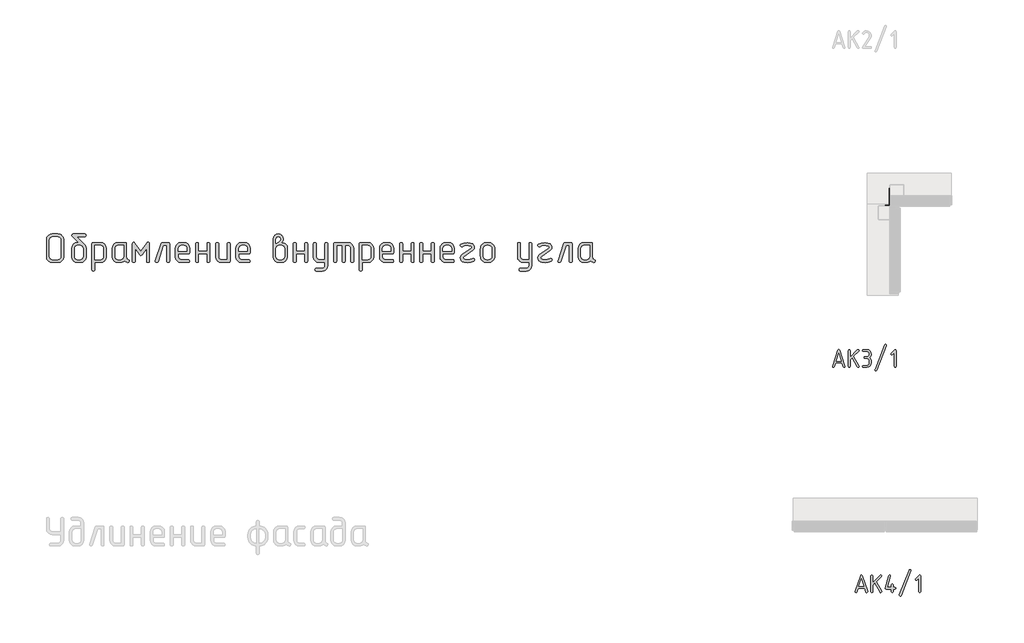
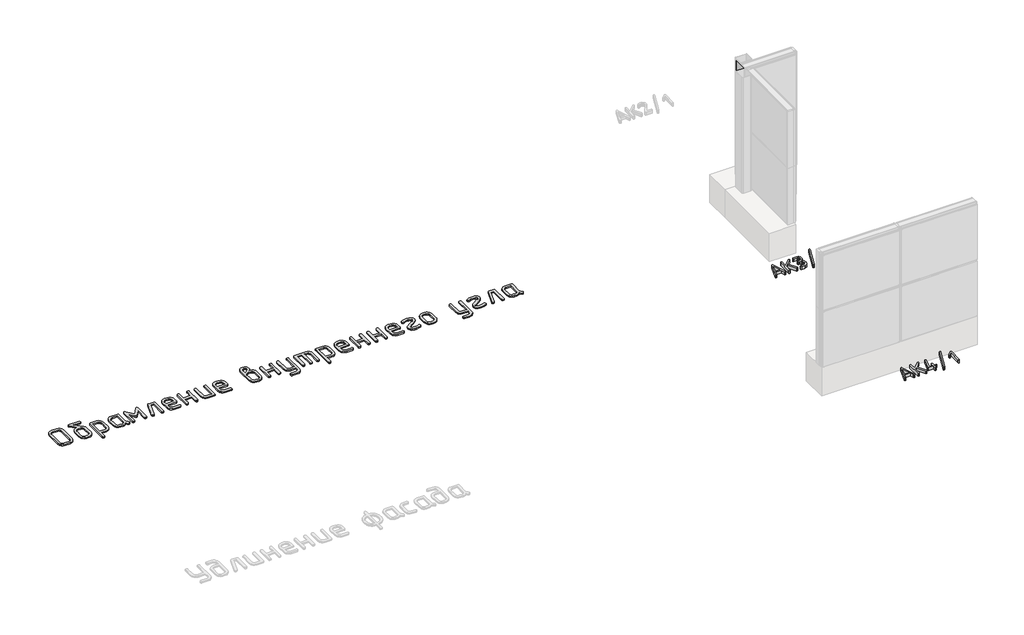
# One storey, part 13 of 37: 4 proxies.
"""IFC4 building model written with IfcOpenShell, lengths in millimetres."""

from ifc_helpers import new_model, si_unit, origin, origin_with_axes, place, context, project, spatial, polyline, outline, extrude, transform, mapped, element, save
from components import generic_models_190d8ba8

model = new_model("IFC4")

# Units and contexts
model_context = context("Model", 3, world=origin())
ifc_project = project(units=[si_unit("LENGTHUNIT", "METRE", prefix="MILLI")], contexts=[model_context])

# Site, building, storey
site = spatial("IfcSite", under=ifc_project)
building = spatial("IfcBuilding", under=site)
storey = spatial("IfcBuildingStorey", under=building, Name="Этаж 01", Elevation=0.0)

# Proxies
placement = place(None, origin())
element("IfcBuildingElementProxy", 1, Name="250 мм ГОСТ 2.304", ObjectType="250 мм ГОСТ 2.304", at=placement, inside=storey, context=model_context, shape_type="SweptSolid", body=[
    extrude(outline(polyline([(46420.8154984, -18926.1300608), (46402.9821438, -18980.0681368), (46398.7740979, -18986.3567408), (46391.2809603, -18988.4529422), (46382.5207159, -18985.1678505), (46378.5160328, -18976.8143318), (46379.6423499, -18972.0587706), (46454.3547197, -18747.9216611), (46459.2667139, -18739.9905113), (46465.9933301, -18737.3467947), (46473.0953853, -18739.9905113), (46477.6319404, -18747.9216611), (46552.7197493, -18972.0587706), (46553.4706274, -18976.8143318), (46549.4659443, -18985.1678505), (46540.7056999, -18988.4529422), (46535.2618338, -18987.7646372), (46529.0670895, -18980.0681368), (46511.1711617, -18926.1300608), (46420.8154984, -18926.1300608)]), holes=[polyline([(46502.7863564, -18900.9756448), (46465.9933301, -18790.9720048), (46429.2003037, -18900.9756448), (46502.7863564, -18900.9756448)])]), origin_with_axes(), (0.0, 0.0, 1.0), 50.0),
    extrude(outline(polyline([(46626.4935215, -18847.4130078), (46731.0532954, -18743.5415389), (46739.8135397, -18739.5368558), (46748.7615036, -18743.385106), (46752.5784672, -18752.3017833), (46748.5737841, -18761.0620276), (46674.6122924, -18835.0235194), (46750.7638452, -18970.2441485), (46752.5784672, -18976.8143318), (46748.5737841, -18985.7310091), (46739.4381007, -18989.2038202), (46733.3528595, -18987.4674147), (46728.8632343, -18982.2581979), (46656.0280597, -18852.1685691), (46626.4935215, -18881.3276682), (46626.4935215, -18976.4388927), (46623.0207104, -18985.7310091), (46614.1040331, -18988.8283812), (46605.1560692, -18985.5432896), (46601.3391055, -18976.4388927), (46601.3391055, -18752.3017833), (46605.1560692, -18743.1973865), (46614.1040331, -18739.9122948), (46622.6765579, -18743.1973865), (46626.4935215, -18752.3017833), (46626.4935215, -18847.4130078)])), origin_with_axes(), (0.0, 0.0, 1.0), 50.0),
    extrude(outline(polyline([(46862.7698267, -18765.0667108), (46812.899007, -18765.0667108), (46803.7633236, -18761.4374667), (46800.5095186, -18752.3017833), (46803.7633236, -18743.760545), (46812.899007, -18739.9122948), (46862.7698267, -18739.9122948), (46889.0192733, -18744.7460725), (46909.4494146, -18759.2474056), (46921.1818847, -18778.4730133), (46925.0927081, -18801.8597371), (46923.544022, -18816.6817577), (46918.8979639, -18830.4869643), (46911.2483933, -18842.649625), (46900.6891702, -18852.5440081), (46918.5538114, -18873.8501739), (46923.4579839, -18887.0922218), (46925.0927081, -18901.7265229), (46925.0927081, -18926.8809389), (46920.5405097, -18950.8229996), (46906.8839144, -18970.96374), (46886.7509957, -18984.6438002), (46862.7698267, -18989.2038202), (46812.899007, -18989.2038202), (46803.7633236, -18985.5432896), (46800.5095186, -18976.8143318), (46803.7633236, -18967.8663679), (46812.899007, -18964.0494043), (46862.7698267, -18964.0494043), (46877.1929434, -18961.1397517), (46889.0192733, -18953.1303854), (46897.0599261, -18941.2727689), (46900.0008653, -18926.8809389), (46900.0008653, -18901.7265229), (46897.0599261, -18887.3346929), (46889.0192733, -18875.4770764), (46877.1929434, -18867.4677101), (46862.7698267, -18864.5580575), (46837.6779839, -18864.5580575), (46828.7300201, -18860.9288134), (46825.2884955, -18852.1685691), (46828.5423005, -18843.4083247), (46837.6779839, -18839.7790806), (46862.7698267, -18839.7790806), (46877.7404586, -18836.7755683), (46889.7388648, -18827.7650312), (46896.8722066, -18815.5319757), (46899.2499872, -18801.4842981), (46897.0599261, -18787.5774102), (46890.4897428, -18776.3924553), (46878.4600501, -18767.8981469), (46862.7698267, -18765.0667108)])), origin_with_axes(), (0.0, 0.0, 1.0), 50.0),
    extrude(outline(polyline([(47139.2181097, -18681.9695356), (47002.1828585, -19030.7524078), (46997.4585839, -19036.571713), (46990.9196872, -19038.7617741), (46981.7840038, -19035.2889629), (46977.7793206, -19026.3722856), (46978.5301987, -19021.6167244), (47115.5654499, -18672.8964254), (47120.2897245, -18667.014547), (47126.8286212, -18664.824486), (47135.9643046, -18668.4850166), (47139.9689878, -18677.2139744), (47139.2181097, -18681.9695356)])), origin_with_axes(), (0.0, 0.0, 1.0), 50.0),
    extrude(outline(polyline([(47276.7539463, -18976.4388927), (47273.2811351, -18985.7310091), (47264.3644578, -18988.8283812), (47255.791933, -18985.5432896), (47251.9749693, -18976.4388927), (47251.9749693, -18782.2117605), (47223.1913093, -18810.6199815), (47214.806504, -18814.6246646), (47205.8585401, -18810.807701), (47202.0415764, -18801.8597371), (47206.0462596, -18793.1620659), (47255.6042134, -18743.5415389), (47266.5545189, -18738.0976728), (47273.8442937, -18741.7582035), (47276.7539463, -18752.3017833), (47276.7539463, -18976.4388927)])), origin_with_axes(), (0.0, 0.0, 1.0), 50.0),
])
element("IfcBuildingElementProxy", 2, Name="400 мм ГОСТ 2.304", ObjectType="400 мм ГОСТ 2.304", at=placement, inside=storey, context=model_context, shape_type="SweptSolid", body=[
    extrude(outline(polyline([(35529.9614469, -17429.4392879), (35524.0713089, -17460.9629021), (35516.7086364, -17474.7339437), (35506.4008948, -17487.1778083), (35480.7926982, -17504.3931902), (35449.8757935, -17510.1316508), (35369.1834306, -17510.1316508), (35338.1148485, -17504.3931902), (35312.0516197, -17487.1778083), (35301.7438782, -17474.7339437), (35294.3812057, -17460.9629021), (35288.4910677, -17429.4392879), (35288.4910677, -17187.9689087), (35294.3812057, -17156.9003266), (35312.0516197, -17130.8370978), (35338.1148485, -17113.1666838), (35369.1834306, -17107.2765458), (35449.8757935, -17107.2765458), (35480.7926982, -17113.1666838), (35494.260385, -17120.5293563), (35506.4008948, -17130.8370978), (35524.0713089, -17156.9003266), (35529.9614469, -17187.9689087), (35529.9614469, -17429.4392879)]), holes=[polyline([(35489.9186202, -17429.4392879), (35489.9186202, -17187.9689087), (35486.9735512, -17172.2829403), (35478.1383442, -17159.4030033), (35465.1825685, -17150.7953123), (35449.8757935, -17147.926082), (35369.1834306, -17147.926082), (35353.4974622, -17150.7953123), (35340.6175252, -17159.4030033), (35332.0098342, -17172.2829403), (35329.1406039, -17187.9689087), (35329.1406039, -17429.4392879), (35332.0098342, -17445.201095), (35340.6175252, -17458.3085481), (35353.4974622, -17467.1437551), (35369.1834306, -17470.0888241), (35449.8757935, -17470.0888241), (35465.1825685, -17467.1437551), (35478.1383442, -17458.3085481), (35486.9735512, -17445.201095), (35489.9186202, -17429.4392879)])]), origin_with_axes(), (0.0, 0.0, 1.0), 20.0),
    extrude(outline(polyline([(35740.9952331, -17228.6184449), (35650.898873, -17142.0612235), (35645.1351328, -17134.4015161), (35643.2138861, -17125.5789489), (35648.5225942, -17112.5852538), (35655.3101567, -17108.6037228), (35665.0554279, -17107.2765458), (35825.8334443, -17107.2765458), (35834.5928126, -17108.7554002), (35840.8495043, -17113.1919633), (35845.8548576, -17127.9046686), (35840.5461495, -17141.7578688), (35834.2136192, -17146.3840287), (35825.8334443, -17147.926082), (35715.1089613, -17147.926082), (35821.687596, -17249.8532772), (35826.4401538, -17256.3248452), (35841.0011817, -17280.593225), (35845.8548576, -17308.7040983), (35845.8548576, -17429.4392879), (35839.9647196, -17460.9629021), (35832.6020471, -17474.7339437), (35822.2943055, -17487.1778083), (35796.5344315, -17504.3931902), (35765.1624947, -17510.1316508), (35725.119668, -17510.1316508), (35694.0510859, -17504.3931902), (35667.9878572, -17487.1778083), (35657.6801156, -17474.7339437), (35650.3174431, -17460.9629021), (35644.4273051, -17429.4392879), (35644.4273051, -17308.7040983), (35650.3174431, -17278.0905483), (35667.9878572, -17252.178997), (35694.0510859, -17234.5085829), (35725.119668, -17228.6184449), (35740.9952331, -17228.6184449)]), holes=[polyline([(35805.8120309, -17429.4392879), (35805.8120309, -17308.7040983), (35802.8669619, -17293.3973233), (35794.0317549, -17280.4415476), (35780.9243018, -17271.6063406), (35765.1624947, -17268.6612716), (35725.119668, -17268.6612716), (35709.4336996, -17271.6063406), (35696.5537626, -17280.4415476), (35687.9460716, -17293.3973233), (35685.0768413, -17308.7040983), (35685.0768413, -17429.4392879), (35687.9460716, -17445.201095), (35696.5537626, -17458.3085481), (35709.4336996, -17467.1437551), (35725.119668, -17470.0888241), (35765.1624947, -17470.0888241), (35780.9243018, -17467.1437551), (35794.0317549, -17458.3085481), (35802.8669619, -17445.201095), (35805.8120309, -17429.4392879)])]), origin_with_axes(), (0.0, 0.0, 1.0), 20.0),
    extrude(outline(polyline([(35969.8258312, -17510.1316508), (35969.8258312, -17610.8454271), (35968.4228155, -17619.6047955), (35964.2137684, -17625.8614871), (35949.8044179, -17630.8668405), (35935.3445082, -17625.5581324), (35930.7183483, -17619.225602), (35929.176295, -17610.8454271), (35929.176295, -17248.6398582), (35930.4655527, -17239.8804899), (35934.3333257, -17233.6237982), (35949.8044179, -17228.6184449), (36049.9114846, -17228.6184449), (36081.2834215, -17234.3569055), (36107.0432955, -17251.5722875), (36124.7137095, -17277.6355162), (36130.6038476, -17308.7040983), (36130.6038476, -17429.4392879), (36124.7137095, -17460.9629021), (36117.351037, -17474.7339437), (36107.0432955, -17487.1778083), (36081.2834215, -17504.3931902), (36049.9114846, -17510.1316508), (35969.8258312, -17510.1316508)]), holes=[polyline([(35969.8258312, -17470.0888241), (36049.9114846, -17470.0888241), (36065.6732918, -17467.1437551), (36078.7807448, -17458.3085481), (36087.6159518, -17445.201095), (36090.5610209, -17429.4392879), (36090.5610209, -17308.7040983), (36087.6159518, -17293.3973233), (36078.7807448, -17280.4415476), (36065.6732918, -17271.6063406), (36049.9114846, -17268.6612716), (35969.8258312, -17268.6612716), (35969.8258312, -17470.0888241)])]), origin_with_axes(), (0.0, 0.0, 1.0), 20.0),
    extrude(outline(polyline([(36394.7247146, -17483.6386695), (36382.7927612, -17494.2813653), (36368.2317333, -17502.7500186), (36351.9011361, -17508.2862428), (36334.6604746, -17510.1316508), (36294.6176479, -17510.1316508), (36263.5490658, -17504.3931902), (36237.485837, -17487.1778083), (36227.1780955, -17474.7339437), (36219.815423, -17460.9629021), (36213.925285, -17429.4392879), (36213.925285, -17308.7040983), (36219.815423, -17278.0905483), (36237.485837, -17252.178997), (36263.5490658, -17234.5085829), (36294.6176479, -17228.6184449), (36395.3314241, -17228.6184449), (36410.3474842, -17233.6237982), (36415.3528375, -17248.6398582), (36415.3528375, -17429.4392879), (36417.2614445, -17442.4709023), (36422.9872653, -17454.4660546), (36431.8224723, -17464.5399602), (36443.0592378, -17471.8078344), (36452.7665897, -17478.9113914), (36456.0023737, -17489.503528), (36450.3903109, -17504.2667924), (36443.9819418, -17509.1204684), (36435.9809603, -17510.7383603), (36427.6892639, -17508.4126406), (36409.1340652, -17497.7699449), (36394.7247146, -17483.6386695)]), holes=[polyline([(36375.3100108, -17429.4392879), (36375.3100108, -17268.6612716), (36294.6176479, -17268.6612716), (36278.9316795, -17271.6063406), (36266.0517425, -17280.4415476), (36257.4440515, -17293.3973233), (36254.5748212, -17308.7040983), (36254.5748212, -17429.4392879), (36257.4440515, -17445.201095), (36266.0517425, -17458.3085481), (36278.9316795, -17467.1437551), (36294.6176479, -17470.0888241), (36334.6604746, -17470.0888241), (36350.4222817, -17467.1437551), (36363.5297347, -17458.3085481), (36372.3649418, -17445.201095), (36375.3100108, -17429.4392879)])]), origin_with_axes(), (0.0, 0.0, 1.0), 20.0),
    extrude(outline(polyline([(36740.1446541, -17490.1102375), (36738.6657998, -17498.4904124), (36734.2292366, -17504.8229428), (36720.1232408, -17510.1316508), (36705.6633311, -17505.1262975), (36701.4922034, -17498.8696058), (36700.1018274, -17490.1102375), (36700.1018274, -17311.029818), (36635.8917392, -17401.2272964), (36627.6253223, -17409.1145198), (36619.4094645, -17411.7435943), (36610.890252, -17409.1145198), (36602.9271899, -17401.2272964), (36539.3238111, -17311.029818), (36539.3238111, -17490.1102375), (36537.7817578, -17498.4904124), (36533.1555979, -17504.8229428), (36519.3023977, -17510.1316508), (36504.2863377, -17505.1262975), (36500.0772906, -17498.8696058), (36498.6742749, -17490.1102375), (36498.6742749, -17248.6398582), (36503.6796282, -17231.2475194), (36509.35489, -17226.6213595), (36516.3699685, -17225.0793062), (36526.7851482, -17228.037015), (36535.7846724, -17236.9101413), (36619.4094645, -17354.6117835), (36703.6409662, -17236.9101413), (36712.7416086, -17228.037015), (36722.4489605, -17225.0793062), (36729.4640391, -17226.6213595), (36735.1393008, -17231.2475194), (36740.1446541, -17248.6398582), (36740.1446541, -17490.1102375)])), origin_with_axes(), (0.0, 0.0, 1.0), 20.0),
    extrude(outline(polyline([(37023.6802251, -17490.1102375), (37022.2772094, -17498.8696058), (37018.0681623, -17505.1262975), (37003.6588117, -17510.1316508), (36989.5022568, -17504.8229428), (36985.103613, -17498.4904124), (36983.6373984, -17490.1102375), (36983.6373984, -17268.6612716), (36937.1230037, -17268.6612716), (36861.6887898, -17496.5818054), (36854.3577167, -17506.5925121), (36843.4875049, -17510.1316508), (36829.0275953, -17504.8229428), (36824.4014353, -17498.6420898), (36822.859382, -17490.716947), (36824.072801, -17483.6386695), (36903.551745, -17242.1682903), (36910.7311407, -17232.0059062), (36922.9664488, -17228.6184449), (37003.6588117, -17228.6184449), (37018.6748718, -17233.6237982), (37023.6802251, -17248.6398582), (37023.6802251, -17490.1102375)])), origin_with_axes(), (0.0, 0.0, 1.0), 20.0),
    extrude(outline(polyline([(37147.6511987, -17389.3964612), (37147.6511987, -17429.4392879), (37150.520429, -17445.201095), (37159.12812, -17458.3085481), (37172.008057, -17467.1437551), (37187.6940254, -17470.0888241), (37288.4078017, -17470.0888241), (37297.16717, -17471.4918398), (37303.4238617, -17475.700887), (37308.429215, -17490.1102375), (37303.1205069, -17503.9634376), (37296.7879766, -17508.5895975), (37288.4078017, -17510.1316508), (37187.6940254, -17510.1316508), (37156.6254433, -17504.3931902), (37130.5622146, -17487.1778083), (37120.254473, -17474.7339437), (37112.8918005, -17460.9629021), (37107.0016625, -17429.4392879), (37107.0016625, -17308.7040983), (37112.8918005, -17277.7871936), (37120.254473, -17264.3195068), (37130.5622146, -17252.178997), (37156.6254433, -17234.5085829), (37187.6940254, -17228.6184449), (37227.7368521, -17228.6184449), (37259.1087889, -17234.3569055), (37284.868663, -17251.5722875), (37302.539077, -17277.6355162), (37308.429215, -17308.7040983), (37308.429215, -17369.3750479), (37303.4238617, -17384.3911079), (37288.4078017, -17389.3964612), (37147.6511987, -17389.3964612)]), holes=[polyline([(37147.6511987, -17349.3536345), (37268.3863883, -17349.3536345), (37268.3863883, -17308.7040983), (37265.4413193, -17293.3973233), (37256.6061123, -17280.4415476), (37243.4986592, -17271.6063406), (37227.7368521, -17268.6612716), (37187.6940254, -17268.6612716), (37172.008057, -17271.6063406), (37159.12812, -17280.4415476), (37150.520429, -17293.3973233), (37147.6511987, -17308.7040983), (37147.6511987, -17349.3536345)])]), origin_with_axes(), (0.0, 0.0, 1.0), 20.0),
    extrude(outline(polyline([(37553.1353783, -17349.3536345), (37553.1353783, -17248.6398582), (37554.6015929, -17240.2596833), (37559.0002367, -17233.927153), (37573.1567916, -17228.6184449), (37587.2627874, -17233.6237982), (37591.6993506, -17239.8804899), (37593.178205, -17248.6398582), (37593.178205, -17490.1102375), (37591.7751893, -17498.8696058), (37587.5661421, -17505.1262975), (37573.1567916, -17510.1316508), (37559.0002367, -17504.8229428), (37554.6015929, -17498.4904124), (37553.1353783, -17490.1102375), (37553.1353783, -17389.3964612), (37432.4001886, -17389.3964612), (37432.4001886, -17490.1102375), (37430.9971729, -17498.8696058), (37426.7881258, -17505.1262975), (37412.3787753, -17510.1316508), (37397.9188656, -17504.8229428), (37393.2927057, -17498.4904124), (37391.7506524, -17490.1102375), (37391.7506524, -17248.6398582), (37393.2295068, -17240.2596833), (37397.66607, -17233.927153), (37412.3787753, -17228.6184449), (37426.2319754, -17233.6237982), (37430.8581353, -17239.8804899), (37432.4001886, -17248.6398582), (37432.4001886, -17349.3536345), (37553.1353783, -17349.3536345)])), origin_with_axes(), (0.0, 0.0, 1.0), 20.0),
    extrude(outline(polyline([(37877.9271949, -17490.1102375), (37872.9218416, -17505.1262975), (37857.9057815, -17510.1316508), (37757.1920053, -17510.1316508), (37726.1234232, -17504.3931902), (37700.0601944, -17487.1778083), (37689.7524529, -17474.7339437), (37682.3897804, -17460.9629021), (37676.4996424, -17429.4392879), (37676.4996424, -17248.6398582), (37677.9784968, -17240.2596833), (37682.4150599, -17233.927153), (37697.1277652, -17228.6184449), (37710.9809654, -17233.6237982), (37715.6071253, -17239.8804899), (37717.1491786, -17248.6398582), (37717.1491786, -17429.4392879), (37720.0184089, -17445.201095), (37728.6260999, -17458.3085481), (37741.5060369, -17467.1437551), (37757.1920053, -17470.0888241), (37837.8843682, -17470.0888241), (37837.8843682, -17248.6398582), (37839.3505828, -17240.2596833), (37843.7492267, -17233.927153), (37857.9057815, -17228.6184449), (37872.0117773, -17233.6237982), (37876.4483405, -17239.8804899), (37877.9271949, -17248.6398582), (37877.9271949, -17490.1102375)])), origin_with_axes(), (0.0, 0.0, 1.0), 20.0),
    extrude(outline(polyline([(38001.8981685, -17389.3964612), (38001.8981685, -17429.4392879), (38004.7673988, -17445.201095), (38013.3750898, -17458.3085481), (38026.2550268, -17467.1437551), (38041.9409952, -17470.0888241), (38142.6547715, -17470.0888241), (38151.4141398, -17471.4918398), (38157.6708315, -17475.700887), (38162.6761848, -17490.1102375), (38157.3674768, -17503.9634376), (38151.0349464, -17508.5895975), (38142.6547715, -17510.1316508), (38041.9409952, -17510.1316508), (38010.8724131, -17504.3931902), (37984.8091844, -17487.1778083), (37974.5014428, -17474.7339437), (37967.1387703, -17460.9629021), (37961.2486323, -17429.4392879), (37961.2486323, -17308.7040983), (37967.1387703, -17277.7871936), (37974.5014428, -17264.3195068), (37984.8091844, -17252.178997), (38010.8724131, -17234.5085829), (38041.9409952, -17228.6184449), (38081.9838219, -17228.6184449), (38113.3557588, -17234.3569055), (38139.1156328, -17251.5722875), (38156.7860468, -17277.6355162), (38162.6761848, -17308.7040983), (38162.6761848, -17369.3750479), (38157.6708315, -17384.3911079), (38142.6547715, -17389.3964612), (38001.8981685, -17389.3964612)]), holes=[polyline([(38001.8981685, -17349.3536345), (38122.6333581, -17349.3536345), (38122.6333581, -17308.7040983), (38119.6882891, -17293.3973233), (38110.8530821, -17280.4415476), (38097.745629, -17271.6063406), (38081.9838219, -17268.6612716), (38041.9409952, -17268.6612716), (38026.2550268, -17271.6063406), (38013.3750898, -17280.4415476), (38004.7673988, -17293.3973233), (38001.8981685, -17308.7040983), (38001.8981685, -17349.3536345)])]), origin_with_axes(), (0.0, 0.0, 1.0), 20.0),
    extrude(outline(polyline([(38606.1808261, -17229.8318639), (38640.5104718, -17235.5703245), (38654.6796664, -17242.7434003), (38666.8517757, -17252.7857065), (38681.8678357, -17277.0793658), (38686.873189, -17308.7040983), (38686.873189, -17429.4392879), (38680.983051, -17460.9629021), (38673.6203785, -17474.7339437), (38663.312637, -17487.1778083), (38637.552763, -17504.3931902), (38606.1808261, -17510.1316508), (38566.1379994, -17510.1316508), (38535.0694173, -17504.3931902), (38509.0061886, -17487.1778083), (38498.698447, -17474.7339437), (38491.3357745, -17460.9629021), (38485.4456365, -17429.4392879), (38485.4456365, -17180.38504), (38491.1840971, -17149.5945331), (38498.357173, -17136.7398756), (38508.3994791, -17125.5789489), (38530.9235691, -17111.8521465), (38558.4530125, -17107.2765458), (38585.5274237, -17111.8521465), (38607.8998364, -17125.5789489), (38617.7209463, -17136.7019563), (38624.7360249, -17149.4428557), (38630.3480877, -17179.7783305), (38628.945072, -17196.2985245), (38624.7360249, -17209.4565366), (38617.2911938, -17220.2888291), (38606.1808261, -17229.8318639)]), holes=[polyline([(38646.8303623, -17429.4392879), (38646.8303623, -17308.7040983), (38643.8852933, -17293.3973233), (38635.0500863, -17280.4415476), (38621.9426332, -17271.6063406), (38606.1808261, -17268.6612716), (38566.1379994, -17268.6612716), (38550.452031, -17271.6063406), (38537.572094, -17280.4415476), (38528.964403, -17293.3973233), (38526.0951727, -17308.7040983), (38526.0951727, -17429.4392879), (38528.964403, -17445.201095), (38537.572094, -17458.3085481), (38550.452031, -17467.1437551), (38566.1379994, -17470.0888241), (38606.1808261, -17470.0888241), (38621.9426332, -17467.1437551), (38635.0500863, -17458.3085481), (38643.8852933, -17445.201095), (38646.8303623, -17429.4392879)]), polyline([(38526.0951727, -17242.1682903), (38535.4991699, -17236.6067866), (38542.5774473, -17231.5508741), (38556.1272927, -17221.8435222), (38566.1379994, -17214.46189), (38582.620274, -17199.7997438), (38588.3840143, -17190.2440693), (38590.305261, -17180.38504), (38587.878423, -17166.7972752), (38580.5979091, -17156.7739288), (38570.0563316, -17150.5930758), (38557.846303, -17148.5327915), (38545.7879518, -17150.5930758), (38535.4991699, -17156.7739288), (38528.446172, -17166.7972752), (38526.0951727, -17180.38504), (38526.0951727, -17242.1682903)])]), origin_with_axes(), (0.0, 0.0, 1.0), 20.0),
    extrude(outline(polyline([(38931.5793523, -17349.3536345), (38931.5793523, -17248.6398582), (38933.0455669, -17240.2596833), (38937.4442107, -17233.927153), (38951.6007656, -17228.6184449), (38965.7067614, -17233.6237982), (38970.1433246, -17239.8804899), (38971.622179, -17248.6398582), (38971.622179, -17490.1102375), (38970.2191633, -17498.8696058), (38966.0101161, -17505.1262975), (38951.6007656, -17510.1316508), (38937.4442107, -17504.8229428), (38933.0455669, -17498.4904124), (38931.5793523, -17490.1102375), (38931.5793523, -17389.3964612), (38810.8441626, -17389.3964612), (38810.8441626, -17490.1102375), (38809.4411469, -17498.8696058), (38805.2320998, -17505.1262975), (38790.8227493, -17510.1316508), (38776.3628396, -17504.8229428), (38771.7366797, -17498.4904124), (38770.1946264, -17490.1102375), (38770.1946264, -17248.6398582), (38771.6734808, -17240.2596833), (38776.110044, -17233.927153), (38790.8227493, -17228.6184449), (38804.6759494, -17233.6237982), (38809.3021093, -17239.8804899), (38810.8441626, -17248.6398582), (38810.8441626, -17349.3536345), (38931.5793523, -17349.3536345)])), origin_with_axes(), (0.0, 0.0, 1.0), 20.0),
    extrude(outline(polyline([(39216.3283422, -17510.1316508), (39135.6359793, -17510.1316508), (39104.5673972, -17504.3931902), (39078.5041685, -17487.1778083), (39068.1964269, -17474.7339437), (39060.8337544, -17460.9629021), (39054.9436164, -17429.4392879), (39054.9436164, -17248.6398582), (39056.4224708, -17240.2596833), (39060.859034, -17233.927153), (39075.5717392, -17228.6184449), (39089.4249394, -17233.6237982), (39094.0510993, -17239.8804899), (39095.5931526, -17248.6398582), (39095.5931526, -17429.4392879), (39098.4623829, -17445.201095), (39107.0700739, -17458.3085481), (39119.9500109, -17467.1437551), (39135.6359793, -17470.0888241), (39216.3283422, -17470.0888241), (39216.3283422, -17248.6398582), (39217.7945568, -17240.2596833), (39222.1932007, -17233.927153), (39236.3497556, -17228.6184449), (39250.4557513, -17233.6237982), (39254.8923145, -17239.8804899), (39256.3711689, -17248.6398582), (39256.3711689, -17550.1744776), (39250.6327083, -17581.5464144), (39233.4173263, -17607.3062884), (39220.9734618, -17617.6140299), (39207.2024202, -17624.9767024), (39175.678806, -17630.8668405), (39095.5931526, -17630.8668405), (39087.2129777, -17629.3879861), (39080.8804473, -17624.9514229), (39075.5717392, -17610.8454271), (39080.5770926, -17596.6888722), (39086.8337842, -17592.2902284), (39095.5931526, -17590.8240138), (39175.678806, -17590.8240138), (39191.4406131, -17587.8789447), (39204.5480662, -17579.0437377), (39213.3832732, -17565.9362847), (39216.3283422, -17550.1744776), (39216.3283422, -17510.1316508)])), origin_with_axes(), (0.0, 0.0, 1.0), 20.0),
    extrude(outline(polyline([(39460.4277959, -17268.6612716), (39380.3421425, -17268.6612716), (39380.3421425, -17490.1102375), (39378.9391268, -17498.8696058), (39374.7300797, -17505.1262975), (39360.3207292, -17510.1316508), (39345.8608195, -17504.8229428), (39341.2346596, -17498.4904124), (39339.6926063, -17490.1102375), (39339.6926063, -17248.6398582), (39340.981864, -17239.8804899), (39344.849637, -17233.6237982), (39360.3207292, -17228.6184449), (39541.1201589, -17228.6184449), (39572.4920957, -17234.3569055), (39598.2519697, -17251.5722875), (39615.9223838, -17277.6355162), (39621.8125218, -17308.7040983), (39621.8125218, -17490.1102375), (39620.4095061, -17498.8696058), (39616.2004589, -17505.1262975), (39601.7911084, -17510.1316508), (39587.3311988, -17504.8229428), (39582.7050389, -17498.4904124), (39581.1629856, -17490.1102375), (39581.1629856, -17308.7040983), (39578.2937552, -17293.3973233), (39569.6860643, -17280.4415476), (39556.8061273, -17271.6063406), (39541.1201589, -17268.6612716), (39501.0773321, -17268.6612716), (39501.0773321, -17490.1102375), (39499.6743164, -17498.8696058), (39495.4652693, -17505.1262975), (39481.0559188, -17510.1316508), (39466.5960091, -17504.8229428), (39461.9698492, -17498.4904124), (39460.4277959, -17490.1102375), (39460.4277959, -17268.6612716)])), origin_with_axes(), (0.0, 0.0, 1.0), 20.0),
    extrude(outline(polyline([(39742.7499479, -17510.1316508), (39742.7499479, -17610.8454271), (39741.3469322, -17619.6047955), (39737.1378851, -17625.8614871), (39722.7285345, -17630.8668405), (39708.2686249, -17625.5581324), (39703.642465, -17619.225602), (39702.1004117, -17610.8454271), (39702.1004117, -17248.6398582), (39703.3896694, -17239.8804899), (39707.2574424, -17233.6237982), (39722.7285345, -17228.6184449), (39822.8356013, -17228.6184449), (39854.2075382, -17234.3569055), (39879.9674122, -17251.5722875), (39897.6378262, -17277.6355162), (39903.5279642, -17308.7040983), (39903.5279642, -17429.4392879), (39897.6378262, -17460.9629021), (39890.2751537, -17474.7339437), (39879.9674122, -17487.1778083), (39854.2075382, -17504.3931902), (39822.8356013, -17510.1316508), (39742.7499479, -17510.1316508)]), holes=[polyline([(39742.7499479, -17470.0888241), (39822.8356013, -17470.0888241), (39838.5974084, -17467.1437551), (39851.7048615, -17458.3085481), (39860.5400685, -17445.201095), (39863.4851375, -17429.4392879), (39863.4851375, -17308.7040983), (39860.5400685, -17293.3973233), (39851.7048615, -17280.4415476), (39838.5974084, -17271.6063406), (39822.8356013, -17268.6612716), (39742.7499479, -17268.6612716), (39742.7499479, -17470.0888241)])]), origin_with_axes(), (0.0, 0.0, 1.0), 20.0),
    extrude(outline(polyline([(40027.4989378, -17389.3964612), (40027.4989378, -17429.4392879), (40030.3681682, -17445.201095), (40038.9758591, -17458.3085481), (40051.8557961, -17467.1437551), (40067.5417645, -17470.0888241), (40168.2555408, -17470.0888241), (40177.0149092, -17471.4918398), (40183.2716008, -17475.700887), (40188.2769542, -17490.1102375), (40182.9682461, -17503.9634376), (40176.6357157, -17508.5895975), (40168.2555408, -17510.1316508), (40067.5417645, -17510.1316508), (40036.4731825, -17504.3931902), (40010.4099537, -17487.1778083), (40000.1022122, -17474.7339437), (39992.7395396, -17460.9629021), (39986.8494016, -17429.4392879), (39986.8494016, -17308.7040983), (39992.7395396, -17277.7871936), (40000.1022122, -17264.3195068), (40010.4099537, -17252.178997), (40036.4731825, -17234.5085829), (40067.5417645, -17228.6184449), (40107.5845913, -17228.6184449), (40138.9565281, -17234.3569055), (40164.7164021, -17251.5722875), (40182.3868161, -17277.6355162), (40188.2769542, -17308.7040983), (40188.2769542, -17369.3750479), (40183.2716008, -17384.3911079), (40168.2555408, -17389.3964612), (40027.4989378, -17389.3964612)]), holes=[polyline([(40027.4989378, -17349.3536345), (40148.2341275, -17349.3536345), (40148.2341275, -17308.7040983), (40145.2890584, -17293.3973233), (40136.4538514, -17280.4415476), (40123.3463984, -17271.6063406), (40107.5845913, -17268.6612716), (40067.5417645, -17268.6612716), (40051.8557961, -17271.6063406), (40038.9758591, -17280.4415476), (40030.3681682, -17293.3973233), (40027.4989378, -17308.7040983), (40027.4989378, -17349.3536345)])]), origin_with_axes(), (0.0, 0.0, 1.0), 20.0),
    extrude(outline(polyline([(40432.9831174, -17349.3536345), (40432.9831174, -17248.6398582), (40434.449332, -17240.2596833), (40438.8479759, -17233.927153), (40453.0045308, -17228.6184449), (40467.1105265, -17233.6237982), (40471.5470897, -17239.8804899), (40473.0259441, -17248.6398582), (40473.0259441, -17490.1102375), (40471.6229284, -17498.8696058), (40467.4138813, -17505.1262975), (40453.0045308, -17510.1316508), (40438.8479759, -17504.8229428), (40434.449332, -17498.4904124), (40432.9831174, -17490.1102375), (40432.9831174, -17389.3964612), (40312.2479278, -17389.3964612), (40312.2479278, -17490.1102375), (40310.8449121, -17498.8696058), (40306.6358649, -17505.1262975), (40292.2265144, -17510.1316508), (40277.7666048, -17504.8229428), (40273.1404449, -17498.4904124), (40271.5983916, -17490.1102375), (40271.5983916, -17248.6398582), (40273.077246, -17240.2596833), (40277.5138091, -17233.927153), (40292.2265144, -17228.6184449), (40306.0797146, -17233.6237982), (40310.7058745, -17239.8804899), (40312.2479278, -17248.6398582), (40312.2479278, -17349.3536345), (40432.9831174, -17349.3536345)])), origin_with_axes(), (0.0, 0.0, 1.0), 20.0),
    extrude(outline(polyline([(40717.7321073, -17349.3536345), (40717.7321073, -17248.6398582), (40719.1983219, -17240.2596833), (40723.5969658, -17233.927153), (40737.7535207, -17228.6184449), (40751.8595165, -17233.6237982), (40756.2960796, -17239.8804899), (40757.774934, -17248.6398582), (40757.774934, -17490.1102375), (40756.3719183, -17498.8696058), (40752.1628712, -17505.1262975), (40737.7535207, -17510.1316508), (40723.5969658, -17504.8229428), (40719.1983219, -17498.4904124), (40717.7321073, -17490.1102375), (40717.7321073, -17389.3964612), (40596.9969177, -17389.3964612), (40596.9969177, -17490.1102375), (40595.593902, -17498.8696058), (40591.3848549, -17505.1262975), (40576.9755044, -17510.1316508), (40562.5155947, -17504.8229428), (40557.8894348, -17498.4904124), (40556.3473815, -17490.1102375), (40556.3473815, -17248.6398582), (40557.8262359, -17240.2596833), (40562.2627991, -17233.927153), (40576.9755044, -17228.6184449), (40590.8287045, -17233.6237982), (40595.4548644, -17239.8804899), (40596.9969177, -17248.6398582), (40596.9969177, -17349.3536345), (40717.7321073, -17349.3536345)])), origin_with_axes(), (0.0, 0.0, 1.0), 20.0),
    extrude(outline(polyline([(40881.7459076, -17389.3964612), (40881.7459076, -17429.4392879), (40884.615138, -17445.201095), (40893.2228289, -17458.3085481), (40906.1027659, -17467.1437551), (40921.7887344, -17470.0888241), (41022.5025106, -17470.0888241), (41031.261879, -17471.4918398), (41037.5185706, -17475.700887), (41042.523924, -17490.1102375), (41037.2152159, -17503.9634376), (41030.8826855, -17508.5895975), (41022.5025106, -17510.1316508), (40921.7887344, -17510.1316508), (40890.7201523, -17504.3931902), (40864.6569235, -17487.1778083), (40854.349182, -17474.7339437), (40846.9865095, -17460.9629021), (40841.0963714, -17429.4392879), (40841.0963714, -17308.7040983), (40846.9865095, -17277.7871936), (40854.349182, -17264.3195068), (40864.6569235, -17252.178997), (40890.7201523, -17234.5085829), (40921.7887344, -17228.6184449), (40961.8315611, -17228.6184449), (40993.2034979, -17234.3569055), (41018.9633719, -17251.5722875), (41036.633786, -17277.6355162), (41042.523924, -17308.7040983), (41042.523924, -17369.3750479), (41037.5185706, -17384.3911079), (41022.5025106, -17389.3964612), (40881.7459076, -17389.3964612)]), holes=[polyline([(40881.7459076, -17349.3536345), (41002.4810973, -17349.3536345), (41002.4810973, -17308.7040983), (40999.5360283, -17293.3973233), (40990.7008212, -17280.4415476), (40977.5933682, -17271.6063406), (40961.8315611, -17268.6612716), (40921.7887344, -17268.6612716), (40906.1027659, -17271.6063406), (40893.2228289, -17280.4415476), (40884.615138, -17293.3973233), (40881.7459076, -17308.7040983), (40881.7459076, -17349.3536345)])]), origin_with_axes(), (0.0, 0.0, 1.0), 20.0),
    extrude(outline(polyline([(41316.6554977, -17491.8292477), (41276.8654667, -17506.0363617), (41231.3116954, -17510.7383603), (41203.3019403, -17509.2721457), (41179.4380335, -17505.3790931), (41157.5459325, -17498.4651328), (41141.4175718, -17484.8015294), (41131.4827038, -17466.4106478), (41128.1710811, -17445.3148531), (41133.4797892, -17419.4285813), (41140.2673517, -17407.8252621), (41150.012623, -17397.6881577), (41278.3316813, -17309.3108078), (41284.9043675, -17296.9743814), (41279.7473368, -17284.2840411), (41264.2762446, -17275.739549), (41243.1678101, -17271.3409052), (41218.8741507, -17269.8746906), (41183.685, -17273.5402271), (41158.2032011, -17284.5368367), (41145.8667747, -17289.2893944), (41138.2449867, -17287.7473411), (41131.760779, -17283.1211812), (41127.3242158, -17276.2704199), (41125.8453614, -17268.0545621), (41127.9182855, -17259.8387043), (41134.1370578, -17252.7857065), (41150.7962894, -17243.3564297), (41172.6631108, -17236.3034318), (41222.4132894, -17230.4385734), (41229.4915669, -17230.4385734), (41268.3715337, -17235.140572), (41298.9598041, -17248.3870626), (41310.4367254, -17257.8036996), (41318.9812175, -17268.9646263), (41324.2899256, -17281.5285688), (41326.0594949, -17295.7609624), (41320.3210343, -17319.5995897), (41303.1056523, -17340.5563468), (41174.6854758, -17429.4392879), (41169.4526064, -17436.5175654), (41167.7083166, -17444.8092618), (41172.7136699, -17458.6119028), (41185.9096014, -17466.5496854), (41208.0039389, -17468.9259643), (41231.8172866, -17470.0888241), (41267.4614695, -17467.1563949), (41297.8475034, -17455.9322692), (41307.8582101, -17453.6065495), (41315.8591915, -17455.1486028), (41322.2675606, -17459.7747627), (41327.8796234, -17474.8413818), (41325.073592, -17484.649852), (41316.6554977, -17491.8292477)])), origin_with_axes(), (0.0, 0.0, 1.0), 20.0),
    extrude(outline(polyline([(41612.0219039, -17421.754301), (41610.4040119, -17439.6143118), (41605.5503359, -17456.0839466), (41597.460876, -17471.1632055), (41586.135632, -17484.8520885), (41572.7121845, -17495.911897), (41557.8225222, -17503.8117603), (41541.4666454, -17508.5516782), (41523.644554, -17510.1316508), (41499.4772924, -17510.1316508), (41481.6615209, -17508.5516782), (41465.2234855, -17503.8117603), (41450.1631862, -17495.911897), (41436.4806231, -17484.8520885), (41425.1553792, -17471.1632055), (41417.0659193, -17456.0839466), (41412.2122433, -17439.6143118), (41410.5943513, -17421.754301), (41410.5943513, -17316.9957947), (41412.2122433, -17299.4012194), (41417.0659193, -17283.1211812), (41425.1553792, -17268.1556803), (41436.4806231, -17254.5047167), (41450.580299, -17243.1794728), (41465.7796359, -17235.0900128), (41482.0786337, -17230.2363369), (41499.4772924, -17228.6184449), (41523.644554, -17228.6184449), (41541.2359694, -17230.2394968), (41557.5065277, -17235.1026526), (41572.4562289, -17243.2079123), (41586.0850729, -17254.5552758), (41597.4324365, -17268.1841199), (41605.5376961, -17283.133821), (41610.4008519, -17299.4043793), (41612.0219039, -17316.9957947), (41612.0219039, -17421.754301)]), holes=[polyline([(41571.9790771, -17421.754301), (41571.9790771, -17316.9957947), (41568.4399384, -17298.440596), (41557.8225222, -17282.8178265), (41542.1997527, -17272.2004103), (41523.644554, -17268.6612716), (41499.4772924, -17268.6612716), (41480.9347335, -17272.2004103), (41465.3498833, -17282.8178265), (41454.7703865, -17298.440596), (41451.2438875, -17316.9957947), (41451.2438875, -17421.754301), (41454.7703865, -17440.3094997), (41465.3498833, -17455.9322692), (41480.9347335, -17466.5496854), (41499.4772924, -17470.0888241), (41523.644554, -17470.0888241), (41542.1997527, -17466.5496854), (41557.8225222, -17455.9322692), (41568.4399384, -17440.3094997), (41571.9790771, -17421.754301)])]), origin_with_axes(), (0.0, 0.0, 1.0), 20.0),
    extrude(outline(polyline([(42096.1760813, -17510.1316508), (42015.4837184, -17510.1316508), (41984.4151363, -17504.3931902), (41958.3519076, -17487.1778083), (41948.0441661, -17474.7339437), (41940.6814935, -17460.9629021), (41934.7913555, -17429.4392879), (41934.7913555, -17248.6398582), (41936.2702099, -17240.2596833), (41940.7067731, -17233.927153), (41955.4194784, -17228.6184449), (41969.2726785, -17233.6237982), (41973.8988384, -17239.8804899), (41975.4408917, -17248.6398582), (41975.4408917, -17429.4392879), (41978.310122, -17445.201095), (41986.917813, -17458.3085481), (41999.79775, -17467.1437551), (42015.4837184, -17470.0888241), (42096.1760813, -17470.0888241), (42096.1760813, -17248.6398582), (42097.642296, -17240.2596833), (42102.0409398, -17233.927153), (42116.1974947, -17228.6184449), (42130.3034905, -17233.6237982), (42134.7400537, -17239.8804899), (42136.2189081, -17248.6398582), (42136.2189081, -17550.1744776), (42130.4804474, -17581.5464144), (42113.2650655, -17607.3062884), (42100.8212009, -17617.6140299), (42087.0501594, -17624.9767024), (42055.5265451, -17630.8668405), (41975.4408917, -17630.8668405), (41967.0607168, -17629.3879861), (41960.7281865, -17624.9514229), (41955.4194784, -17610.8454271), (41960.4248317, -17596.6888722), (41966.6815234, -17592.2902284), (41975.4408917, -17590.8240138), (42055.5265451, -17590.8240138), (42071.2883522, -17587.8789447), (42084.3958053, -17579.0437377), (42093.2310123, -17565.9362847), (42096.1760813, -17550.1744776), (42096.1760813, -17510.1316508)])), origin_with_axes(), (0.0, 0.0, 1.0), 20.0),
    extrude(outline(polyline([(42410.3504818, -17491.8292477), (42370.5604507, -17506.0363617), (42325.0066794, -17510.7383603), (42296.9969244, -17509.2721457), (42273.1330176, -17505.3790931), (42251.2409166, -17498.4651328), (42235.1125558, -17484.8015294), (42225.1776879, -17466.4106478), (42221.8660652, -17445.3148531), (42227.1747733, -17419.4285813), (42233.9623358, -17407.8252621), (42243.707607, -17397.6881577), (42372.0266654, -17309.3108078), (42378.5993516, -17296.9743814), (42373.4423208, -17284.2840411), (42357.9712287, -17275.739549), (42336.8627942, -17271.3409052), (42312.5691348, -17269.8746906), (42277.379984, -17273.5402271), (42251.8981852, -17284.5368367), (42239.5617588, -17289.2893944), (42231.9399708, -17287.7473411), (42225.455763, -17283.1211812), (42221.0191999, -17276.2704199), (42219.5403455, -17268.0545621), (42221.6132696, -17259.8387043), (42227.8320419, -17252.7857065), (42244.4912735, -17243.3564297), (42266.3580949, -17236.3034318), (42316.1082735, -17230.4385734), (42323.186551, -17230.4385734), (42362.0665178, -17235.140572), (42392.6547882, -17248.3870626), (42404.1317095, -17257.8036996), (42412.6762016, -17268.9646263), (42417.9849096, -17281.5285688), (42419.754479, -17295.7609624), (42414.0160184, -17319.5995897), (42396.8006364, -17340.5563468), (42268.3804599, -17429.4392879), (42263.1475905, -17436.5175654), (42261.4033007, -17444.8092618), (42266.408654, -17458.6119028), (42279.6045855, -17466.5496854), (42301.698923, -17468.9259643), (42325.5122707, -17470.0888241), (42361.1564536, -17467.1563949), (42391.5424875, -17455.9322692), (42401.5531941, -17453.6065495), (42409.5541756, -17455.1486028), (42415.9625447, -17459.7747627), (42421.5746075, -17474.8413818), (42418.7685761, -17484.649852), (42410.3504818, -17491.8292477)])), origin_with_axes(), (0.0, 0.0, 1.0), 20.0),
    extrude(outline(polyline([(42705.7168879, -17490.1102375), (42704.3138722, -17498.8696058), (42700.1048251, -17505.1262975), (42685.6954746, -17510.1316508), (42671.5389197, -17504.8229428), (42667.1402758, -17498.4904124), (42665.6740612, -17490.1102375), (42665.6740612, -17268.6612716), (42619.1596666, -17268.6612716), (42543.7254526, -17496.5818054), (42536.3943795, -17506.5925121), (42525.5241677, -17510.1316508), (42511.0642581, -17504.8229428), (42506.4380982, -17498.6420898), (42504.8960449, -17490.716947), (42506.1094639, -17483.6386695), (42585.5884078, -17242.1682903), (42592.7678035, -17232.0059062), (42605.0031117, -17228.6184449), (42685.6954746, -17228.6184449), (42700.7115346, -17233.6237982), (42705.7168879, -17248.6398582), (42705.7168879, -17490.1102375)])), origin_with_axes(), (0.0, 0.0, 1.0), 20.0),
    extrude(outline(polyline([(42969.837755, -17483.6386695), (42957.9058016, -17494.2813653), (42943.3447737, -17502.7500186), (42927.0141765, -17508.2862428), (42909.773515, -17510.1316508), (42869.7306882, -17510.1316508), (42838.6621062, -17504.3931902), (42812.5988774, -17487.1778083), (42802.2911359, -17474.7339437), (42794.9284633, -17460.9629021), (42789.0383253, -17429.4392879), (42789.0383253, -17308.7040983), (42794.9284633, -17278.0905483), (42812.5988774, -17252.178997), (42838.6621062, -17234.5085829), (42869.7306882, -17228.6184449), (42970.4444645, -17228.6184449), (42985.4605245, -17233.6237982), (42990.4658779, -17248.6398582), (42990.4658779, -17429.4392879), (42992.3744848, -17442.4709023), (42998.1003057, -17454.4660546), (43006.9355127, -17464.5399602), (43018.1722782, -17471.8078344), (43027.8796301, -17478.9113914), (43031.1154141, -17489.503528), (43025.5033512, -17504.2667924), (43019.0949822, -17509.1204684), (43011.0940007, -17510.7383603), (43002.8023043, -17508.4126406), (42984.2471055, -17497.7699449), (42969.837755, -17483.6386695)]), holes=[polyline([(42950.4230512, -17429.4392879), (42950.4230512, -17268.6612716), (42869.7306882, -17268.6612716), (42854.0447198, -17271.6063406), (42841.1647828, -17280.4415476), (42832.5570919, -17293.3973233), (42829.6878615, -17308.7040983), (42829.6878615, -17429.4392879), (42832.5570919, -17445.201095), (42841.1647828, -17458.3085481), (42854.0447198, -17467.1437551), (42869.7306882, -17470.0888241), (42909.773515, -17470.0888241), (42925.5353221, -17467.1437551), (42938.6427751, -17458.3085481), (42947.4779822, -17445.201095), (42950.4230512, -17429.4392879)])]), origin_with_axes(), (0.0, 0.0, 1.0), 20.0),
])
element("IfcBuildingElementProxy", 3, Name="250 мм ГОСТ 2.304", ObjectType="250 мм ГОСТ 2.304", at=placement, inside=storey, context=model_context, shape_type="SweptSolid", body=[
    extrude(outline(polyline([(46740.8154984, -22106.1300608), (46722.9821438, -22160.0681368), (46718.7740979, -22166.3567408), (46711.2809603, -22168.4529422), (46702.5207159, -22165.1678505), (46698.5160328, -22156.8143318), (46699.6423499, -22152.0587706), (46774.3547197, -21927.9216611), (46779.2667139, -21919.9905113), (46785.9933301, -21917.3467947), (46793.0953853, -21919.9905113), (46797.6319404, -21927.9216611), (46872.7197493, -22152.0587706), (46873.4706274, -22156.8143318), (46869.4659443, -22165.1678505), (46860.7056999, -22168.4529422), (46855.2618338, -22167.7646372), (46849.0670895, -22160.0681368), (46831.1711617, -22106.1300608), (46740.8154984, -22106.1300608)]), holes=[polyline([(46822.7863564, -22080.9756448), (46785.9933301, -21970.9720048), (46749.2003037, -22080.9756448), (46822.7863564, -22080.9756448)])]), origin_with_axes(), (0.0, 0.0, 1.0), 50.0),
    extrude(outline(polyline([(46946.4935215, -22027.4130078), (47051.0532954, -21923.5415389), (47059.8135397, -21919.5368558), (47068.7615036, -21923.385106), (47072.5784672, -21932.3017833), (47068.5737841, -21941.0620276), (46994.6122924, -22015.0235194), (47070.7638452, -22150.2441485), (47072.5784672, -22156.8143318), (47068.5737841, -22165.7310091), (47059.4381007, -22169.2038202), (47053.3528595, -22167.4674147), (47048.8632343, -22162.2581979), (46976.0280597, -22032.1685691), (46946.4935215, -22061.3276682), (46946.4935215, -22156.4388927), (46943.0207104, -22165.7310091), (46934.1040331, -22168.8283812), (46925.1560692, -22165.5432896), (46921.3391055, -22156.4388927), (46921.3391055, -21932.3017833), (46925.1560692, -21923.1973865), (46934.1040331, -21919.9122948), (46942.6765579, -21923.1973865), (46946.4935215, -21932.3017833), (46946.4935215, -22027.4130078)])), origin_with_axes(), (0.0, 0.0, 1.0), 50.0),
    extrude(outline(polyline([(47233.8295368, -22094.1160114), (47258.6085137, -22094.1160114), (47267.90063, -22097.5888225), (47270.9980022, -22106.5054998), (47267.90063, -22115.2657442), (47258.6085137, -22118.8949883), (47233.8295368, -22118.8949883), (47233.8295368, -22156.4388927), (47230.3567256, -22165.7310091), (47221.4400483, -22168.8283812), (47212.6798039, -22165.5432896), (47209.0505598, -22156.4388927), (47209.0505598, -22118.8949883), (47134.33819, -22118.8949883), (47124.4829151, -22116.3451315), (47121.1978235, -22108.6955609), (47121.5732625, -22105.7859083), (47122.3241406, -22103.2516948), (47171.8820945, -21928.6725392), (47176.6063691, -21921.9146364), (47183.5207048, -21919.5368558), (47192.4686687, -21923.0096669), (47196.2856323, -21931.9263442), (47195.9101933, -21935.6181615), (47150.7323616, -22094.1160114), (47209.0505598, -22094.1160114), (47209.0505598, -22056.5721069), (47212.4920844, -22047.6554296), (47221.4400483, -22044.1826185), (47230.0125731, -22047.4677101), (47233.8295368, -22056.5721069), (47233.8295368, -22094.1160114)])), origin_with_axes(), (0.0, 0.0, 1.0), 50.0),
    extrude(outline(polyline([(47483.2462085, -21861.9695356), (47346.2109574, -22210.7524078), (47341.4866827, -22216.571713), (47334.947786, -22218.7617741), (47325.8121026, -22215.2889629), (47321.8074195, -22206.3722856), (47322.5582976, -22201.6167244), (47459.5935487, -21852.8964254), (47464.3178234, -21847.014547), (47470.8567201, -21844.824486), (47479.9924035, -21848.4850166), (47483.9970866, -21857.2139744), (47483.2462085, -21861.9695356)])), origin_with_axes(), (0.0, 0.0, 1.0), 50.0),
    extrude(outline(polyline([(47620.7820451, -22156.4388927), (47617.3092339, -22165.7310091), (47608.3925566, -22168.8283812), (47599.8200318, -22165.5432896), (47596.0030682, -22156.4388927), (47596.0030682, -21962.2117605), (47567.2194081, -21990.6199815), (47558.8346028, -21994.6246646), (47549.8866389, -21990.807701), (47546.0696753, -21981.8597371), (47550.0743584, -21973.1620659), (47599.6323123, -21923.5415389), (47610.5826177, -21918.0976728), (47617.8723925, -21921.7582035), (47620.7820451, -21932.3017833), (47620.7820451, -22156.4388927)])), origin_with_axes(), (0.0, 0.0, 1.0), 50.0),
])
generic_models_shape = generic_models_190d8ba8(model_context)
element("IfcBuildingElementProxy", 4, Name="АК3_1 Обрамление внутреннего угла : АК3_1 Обрамление внутреннего угла", ObjectType="АК3_1 Обрамление внутреннего угла : АК3_1 Обрамление внутреннего угла", at=placement, inside=storey, context=model_context, shape_type="MappedRepresentation", body=[
    mapped(generic_models_shape, transform((47185.2069431, -16708.1316508, 2024.5525605), x_axis=(0.0, 0.0, -1.0), y_axis=(-1.0, 0.0, 0.0), z_axis=(0.0, 1.0, 0.0))),
])

save(model, "model.ifc")
